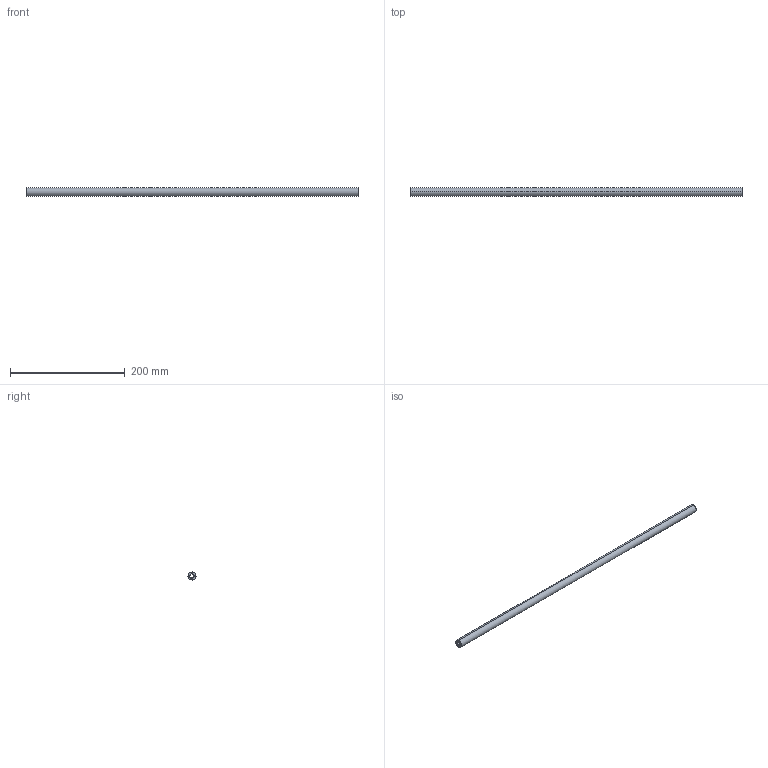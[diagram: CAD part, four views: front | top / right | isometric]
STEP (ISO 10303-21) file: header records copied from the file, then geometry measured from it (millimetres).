
FILE_DESCRIPTION (( 'STEP AP214' ), '1' );
FILE_NAME ('SyncronisationsstangeNova_Pro_KAB_0700_KS16.step', '2009-11-24T08:53:16', ( 'Grass' ), ( 'Grass GmbH' ), 'SwSTEP 2.0', 'SolidWorks 2009', '' );
FILE_SCHEMA (( 'AUTOMOTIVE_DESIGN' ));
Length unit declared in the file: millimetre
Products named in the file (1): SyncronisationsstangeNova_Pro_KAB_0700_KS16
Bounding box: 579 x 14 x 14 mm (x, y, z)
Volume: 62607.1 mm3; surface area: 40435.4 mm2
Topology: 1 solids, 1 shells, 15 faces, 39 edges, 26 vertices
Faces by surface type: cylinder 11, plane 4
Entity records: 513 total; most frequent: DIRECTION 93, CARTESIAN_POINT 81, ORIENTED_EDGE 78, EDGE_CURVE 39, AXIS2_PLACEMENT_3D 38, VERTEX_POINT 26, CIRCLE 22, VECTOR 17
